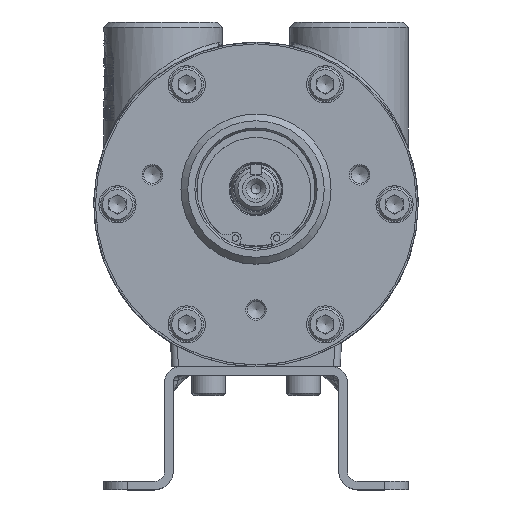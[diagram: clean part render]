
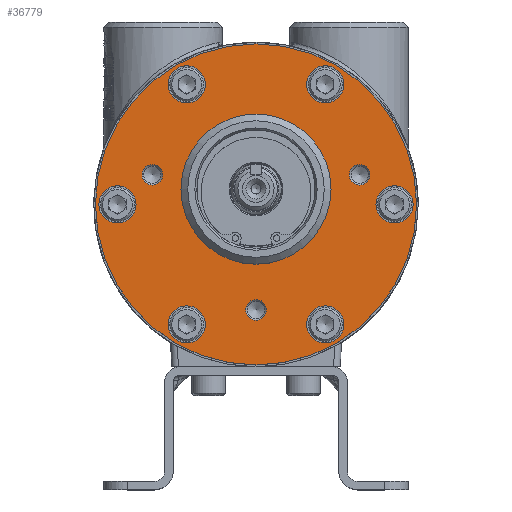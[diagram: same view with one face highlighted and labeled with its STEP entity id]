
A CAD part, top view. The second image highlights one B-rep face of the part: STEP entity #36779.
In plain terms, the highlighted planar face has unit normal (0, 0, 1).
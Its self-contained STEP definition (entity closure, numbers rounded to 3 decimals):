
#60 = ORIENTED_EDGE ( 'NONE', *, *, #19299, .F. ) ;
#122 = CARTESIAN_POINT ( 'NONE',  ( 0., 0., 38.05 ) ) ;
#566 = CARTESIAN_POINT ( 'NONE',  ( -41., 0., 38.05 ) ) ;
#619 = CIRCLE ( 'NONE', #5936, 5.5 ) ;
#786 = DIRECTION ( 'NONE',  ( 0., -1., 0. ) ) ;
#1087 = CARTESIAN_POINT ( 'NONE',  ( -20.5, 35.507, 38.05 ) ) ;
#1393 = DIRECTION ( 'NONE',  ( 0., -1., 0. ) ) ;
#1449 = DIRECTION ( 'NONE',  ( 0., 0., 1. ) ) ;
#1888 = EDGE_LOOP ( 'NONE', ( #4978 ) ) ;
#2347 = FACE_BOUND ( 'NONE', #24580, .T. ) ;
#2400 = CARTESIAN_POINT ( 'NONE',  ( 20.5, 35.507, 38.05 ) ) ;
#2771 = FACE_BOUND ( 'NONE', #21229, .T. ) ;
#4421 = VERTEX_POINT ( 'NONE', #20826 ) ;
#4580 = ORIENTED_EDGE ( 'NONE', *, *, #14066, .F. ) ;
#4978 = ORIENTED_EDGE ( 'NONE', *, *, #33989, .F. ) ;
#5106 = DIRECTION ( 'NONE',  ( 0., 0., 1. ) ) ;
#5170 = EDGE_CURVE ( 'NONE', #4421, #4421, #29015, .T. ) ;
#5936 = AXIS2_PLACEMENT_3D ( 'NONE', #2400, #11537, #34014 ) ;
#6304 = CARTESIAN_POINT ( 'NONE',  ( 0., -31.22, 38.05 ) ) ;
#6423 = EDGE_CURVE ( 'NONE', #40005, #40005, #13839, .T. ) ;
#6518 = DIRECTION ( 'NONE',  ( 0., 0., -1. ) ) ;
#7023 = DIRECTION ( 'NONE',  ( 1., 0., 0. ) ) ;
#7070 = CARTESIAN_POINT ( 'NONE',  ( -41., -5.5, 38.05 ) ) ;
#7180 = CIRCLE ( 'NONE', #17807, 5.5 ) ;
#7824 = AXIS2_PLACEMENT_3D ( 'NONE', #566, #19644, #786 ) ;
#7861 = AXIS2_PLACEMENT_3D ( 'NONE', #20825, #23762, #39178 ) ;
#8346 = FACE_BOUND ( 'NONE', #39135, .T. ) ;
#8501 = EDGE_LOOP ( 'NONE', ( #21589 ) ) ;
#8624 = CARTESIAN_POINT ( 'NONE',  ( -20.5, -35.507, 38.05 ) ) ;
#8890 = DIRECTION ( 'NONE',  ( 0., -1., 0. ) ) ;
#9999 = ORIENTED_EDGE ( 'NONE', *, *, #32540, .F. ) ;
#10253 = DIRECTION ( 'NONE',  ( 0., 1., 0. ) ) ;
#10443 = ORIENTED_EDGE ( 'NONE', *, *, #6423, .F. ) ;
#10626 = DIRECTION ( 'NONE',  ( 0., -1., 0. ) ) ;
#10826 = VERTEX_POINT ( 'NONE', #40305 ) ;
#10844 = DIRECTION ( 'NONE',  ( 0., 0., 1. ) ) ;
#11299 = CIRCLE ( 'NONE', #23941, 3.053 ) ;
#11301 = CIRCLE ( 'NONE', #23277, 22.2 ) ;
#11485 = AXIS2_PLACEMENT_3D ( 'NONE', #40284, #11984, #15931 ) ;
#11537 = DIRECTION ( 'NONE',  ( 0., 0., 1. ) ) ;
#11839 = EDGE_CURVE ( 'NONE', #36878, #36878, #11299, .T. ) ;
#11984 = DIRECTION ( 'NONE',  ( 0., 0., 1. ) ) ;
#13839 = CIRCLE ( 'NONE', #7861, 3.053 ) ;
#14066 = EDGE_CURVE ( 'NONE', #41019, #41019, #36060, .T. ) ;
#14607 = PLANE ( 'NONE',  #16448 ) ;
#15018 = FACE_BOUND ( 'NONE', #15366, .T. ) ;
#15171 = ORIENTED_EDGE ( 'NONE', *, *, #23236, .F. ) ;
#15245 = ORIENTED_EDGE ( 'NONE', *, *, #21088, .F. ) ;
#15366 = EDGE_LOOP ( 'NONE', ( #9999 ) ) ;
#15931 = DIRECTION ( 'NONE',  ( 0., -1., 0. ) ) ;
#16448 = AXIS2_PLACEMENT_3D ( 'NONE', #34370, #27703, #40411 ) ;
#16647 = VERTEX_POINT ( 'NONE', #29369 ) ;
#17369 = EDGE_LOOP ( 'NONE', ( #10443 ) ) ;
#17768 = DIRECTION ( 'NONE',  ( 0., -1., 0. ) ) ;
#17807 = AXIS2_PLACEMENT_3D ( 'NONE', #20689, #23406, #1393 ) ;
#18954 = DIRECTION ( 'NONE',  ( 0., 0., 1. ) ) ;
#18955 = AXIS2_PLACEMENT_3D ( 'NONE', #122, #6518, #10253 ) ;
#19136 = ORIENTED_EDGE ( 'NONE', *, *, #32652, .F. ) ;
#19299 = EDGE_CURVE ( 'NONE', #40199, #40199, #23170, .T. ) ;
#19531 = VERTEX_POINT ( 'NONE', #7070 ) ;
#19644 = DIRECTION ( 'NONE',  ( 0., 0., 1. ) ) ;
#20354 = VERTEX_POINT ( 'NONE', #40107 ) ;
#20689 = CARTESIAN_POINT ( 'NONE',  ( 20.5, -35.507, 38.05 ) ) ;
#20825 = CARTESIAN_POINT ( 'NONE',  ( -30.67, 8.75, 38.05 ) ) ;
#20826 = CARTESIAN_POINT ( 'NONE',  ( -20.5, -41.007, 38.05 ) ) ;
#21088 = EDGE_CURVE ( 'NONE', #19531, #19531, #25767, .T. ) ;
#21229 = EDGE_LOOP ( 'NONE', ( #4580 ) ) ;
#21589 = ORIENTED_EDGE ( 'NONE', *, *, #11839, .F. ) ;
#21645 = FACE_OUTER_BOUND ( 'NONE', #40721, .T. ) ;
#22005 = ORIENTED_EDGE ( 'NONE', *, *, #26855, .F. ) ;
#22564 = EDGE_LOOP ( 'NONE', ( #15245 ) ) ;
#23170 = CIRCLE ( 'NONE', #28520, 3.053 ) ;
#23236 = EDGE_CURVE ( 'NONE', #35393, #35393, #11301, .T. ) ;
#23277 = AXIS2_PLACEMENT_3D ( 'NONE', #28041, #30939, #8890 ) ;
#23406 = DIRECTION ( 'NONE',  ( 0., 0., 1. ) ) ;
#23762 = DIRECTION ( 'NONE',  ( 0., 0., 1. ) ) ;
#23941 = AXIS2_PLACEMENT_3D ( 'NONE', #29916, #1449, #7023 ) ;
#24320 = ORIENTED_EDGE ( 'NONE', *, *, #5170, .F. ) ;
#24367 = CARTESIAN_POINT ( 'NONE',  ( 3.053, -31.22, 38.05 ) ) ;
#24481 = VERTEX_POINT ( 'NONE', #26422 ) ;
#24580 = EDGE_LOOP ( 'NONE', ( #22005 ) ) ;
#24588 = FACE_BOUND ( 'NONE', #17369, .T. ) ;
#24799 = CARTESIAN_POINT ( 'NONE',  ( 41., -5.5, 38.05 ) ) ;
#25682 = AXIS2_PLACEMENT_3D ( 'NONE', #1087, #10844, #10626 ) ;
#25767 = CIRCLE ( 'NONE', #7824, 5.5 ) ;
#26422 = CARTESIAN_POINT ( 'NONE',  ( -20.5, 30.007, 38.05 ) ) ;
#26855 = EDGE_CURVE ( 'NONE', #16647, #16647, #619, .T. ) ;
#27703 = DIRECTION ( 'NONE',  ( 0., 0., -1. ) ) ;
#28041 = CARTESIAN_POINT ( 'NONE',  ( 0., 4.5, 38.05 ) ) ;
#28520 = AXIS2_PLACEMENT_3D ( 'NONE', #6304, #18954, #31689 ) ;
#29015 = CIRCLE ( 'NONE', #32345, 5.5 ) ;
#29369 = CARTESIAN_POINT ( 'NONE',  ( 20.5, 30.007, 38.05 ) ) ;
#29916 = CARTESIAN_POINT ( 'NONE',  ( 30.67, 8.75, 38.05 ) ) ;
#30819 = FACE_BOUND ( 'NONE', #40022, .T. ) ;
#30939 = DIRECTION ( 'NONE',  ( 0., 0., 1. ) ) ;
#31008 = CIRCLE ( 'NONE', #25682, 5.5 ) ;
#31030 = FACE_BOUND ( 'NONE', #8501, .T. ) ;
#31420 = EDGE_LOOP ( 'NONE', ( #24320 ) ) ;
#31689 = DIRECTION ( 'NONE',  ( 1., 0., 0. ) ) ;
#32062 = CARTESIAN_POINT ( 'NONE',  ( 0., -17.7, 38.05 ) ) ;
#32253 = CIRCLE ( 'NONE', #18955, 47.5 ) ;
#32345 = AXIS2_PLACEMENT_3D ( 'NONE', #8624, #5106, #17768 ) ;
#32540 = EDGE_CURVE ( 'NONE', #20354, #20354, #7180, .T. ) ;
#32652 = EDGE_CURVE ( 'NONE', #10826, #10826, #32253, .T. ) ;
#33334 = CARTESIAN_POINT ( 'NONE',  ( -27.617, 8.75, 38.05 ) ) ;
#33743 = FACE_BOUND ( 'NONE', #1888, .T. ) ;
#33989 = EDGE_CURVE ( 'NONE', #24481, #24481, #31008, .T. ) ;
#34014 = DIRECTION ( 'NONE',  ( 0., -1., 0. ) ) ;
#34370 = CARTESIAN_POINT ( 'NONE',  ( -39.6, -10.6, 38.05 ) ) ;
#34580 = CARTESIAN_POINT ( 'NONE',  ( 33.723, 8.75, 38.05 ) ) ;
#35393 = VERTEX_POINT ( 'NONE', #32062 ) ;
#36060 = CIRCLE ( 'NONE', #11485, 5.5 ) ;
#36779 = ADVANCED_FACE ( 'NONE', ( #24588, #8346, #31030, #30819, #33743, #2347, #2771, #15018, #40826, #40006, #21645 ), #14607, .F. ) ;
#36878 = VERTEX_POINT ( 'NONE', #34580 ) ;
#39135 = EDGE_LOOP ( 'NONE', ( #60 ) ) ;
#39178 = DIRECTION ( 'NONE',  ( 1., 0., 0. ) ) ;
#40005 = VERTEX_POINT ( 'NONE', #33334 ) ;
#40006 = FACE_BOUND ( 'NONE', #22564, .T. ) ;
#40022 = EDGE_LOOP ( 'NONE', ( #15171 ) ) ;
#40107 = CARTESIAN_POINT ( 'NONE',  ( 20.5, -41.007, 38.05 ) ) ;
#40199 = VERTEX_POINT ( 'NONE', #24367 ) ;
#40284 = CARTESIAN_POINT ( 'NONE',  ( 41., 0., 38.05 ) ) ;
#40305 = CARTESIAN_POINT ( 'NONE',  ( 0., 47.5, 38.05 ) ) ;
#40411 = DIRECTION ( 'NONE',  ( 0., 1., 0. ) ) ;
#40721 = EDGE_LOOP ( 'NONE', ( #19136 ) ) ;
#40826 = FACE_BOUND ( 'NONE', #31420, .T. ) ;
#41019 = VERTEX_POINT ( 'NONE', #24799 ) ;
